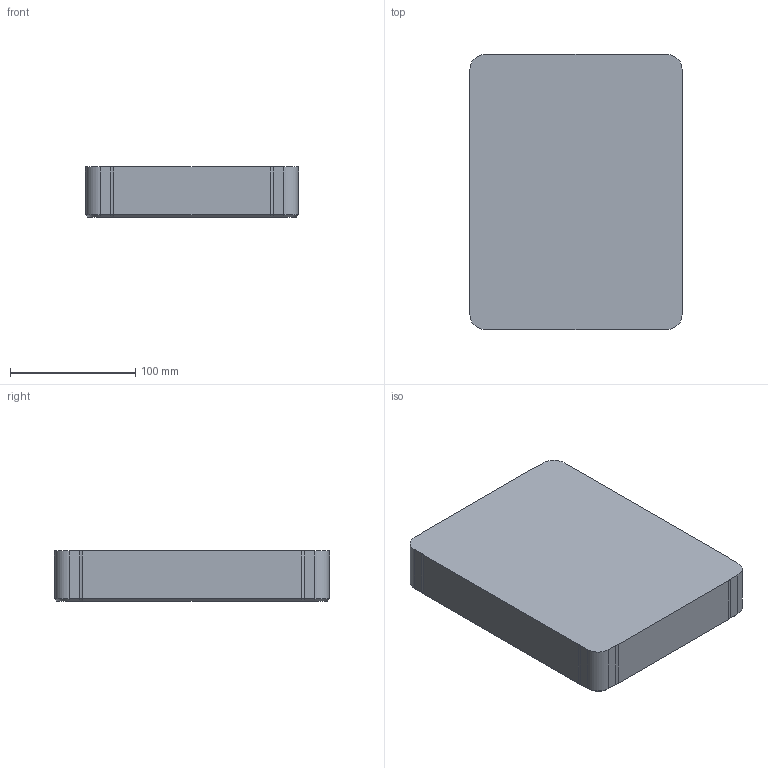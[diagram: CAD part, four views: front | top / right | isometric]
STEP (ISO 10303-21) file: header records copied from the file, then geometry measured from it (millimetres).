
FILE_DESCRIPTION (( 'STEP AP214' ), '1' );
FILE_NAME ('AS-Formeinsatz 170_220_40.STEP', '2024-02-26T13:44:28', ( '' ), ( '' ), 'SwSTEP 2.0', 'SolidWorks 2020', '' );
FILE_SCHEMA (( 'AUTOMOTIVE_DESIGN' ));
Length unit declared in the file: millimetre
Products named in the file (1): AS-Formeinsatz 170_220_40
Bounding box: 170 x 220 x 40 mm (x, y, z)
Volume: 1481994.1 mm3; surface area: 106105.1 mm2
Topology: 1 solids, 1 shells, 62 faces, 148 edges, 88 vertices
Faces by surface type: plane 26, cone 20, cylinder 16
Full cylindrical faces by diameter (mm): 8.5 x4
Entity records: 1710 total; most frequent: CARTESIAN_POINT 303, DIRECTION 298, ORIENTED_EDGE 264, EDGE_CURVE 132, AXIS2_PLACEMENT_3D 111, VERTEX_POINT 84, LINE 76, VECTOR 76
